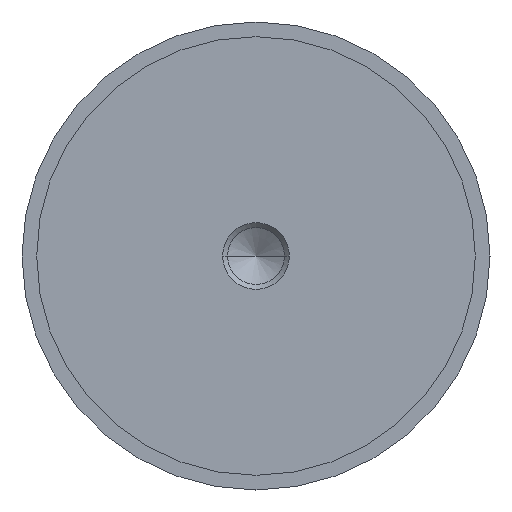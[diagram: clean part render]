
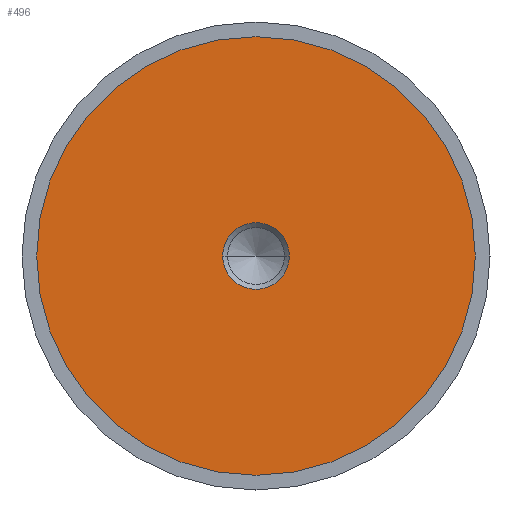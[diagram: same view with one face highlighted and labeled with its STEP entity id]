
A CAD part, left-side view. The second image highlights one B-rep face of the part: STEP entity #496.
In plain terms, the highlighted planar face has unit normal (-1, 0, 0).
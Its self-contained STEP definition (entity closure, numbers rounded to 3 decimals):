
#40 = DIRECTION ( 'NONE',  ( 0., 0., 1. ) ) ;
#45 = DIRECTION ( 'NONE',  ( -1., 0., 0. ) ) ;
#51 = CARTESIAN_POINT ( 'NONE',  ( -14.99, 0., 0. ) ) ;
#58 = CIRCLE ( 'NONE', #655, 4.99 ) ;
#73 = VERTEX_POINT ( 'NONE', #103 ) ;
#103 = CARTESIAN_POINT ( 'NONE',  ( -14.99, -4.99, 0. ) ) ;
#112 = FACE_OUTER_BOUND ( 'NONE', #628, .T. ) ;
#132 = AXIS2_PLACEMENT_3D ( 'NONE', #651, #606, #706 ) ;
#148 = VERTEX_POINT ( 'NONE', #473 ) ;
#192 = CIRCLE ( 'NONE', #388, 32.8 ) ;
#197 = VERTEX_POINT ( 'NONE', #287 ) ;
#212 = EDGE_CURVE ( 'NONE', #148, #73, #525, .T. ) ;
#217 = CARTESIAN_POINT ( 'NONE',  ( -14.99, 0., 0. ) ) ;
#223 = DIRECTION ( 'NONE',  ( 0., 0., -1. ) ) ;
#248 = EDGE_CURVE ( 'NONE', #684, #197, #633, .T. ) ;
#287 = CARTESIAN_POINT ( 'NONE',  ( -14.99, 0., 32.8 ) ) ;
#300 = ORIENTED_EDGE ( 'NONE', *, *, #537, .T. ) ;
#377 = AXIS2_PLACEMENT_3D ( 'NONE', #393, #652, #223 ) ;
#388 = AXIS2_PLACEMENT_3D ( 'NONE', #217, #658, #40 ) ;
#392 = DIRECTION ( 'NONE',  ( 0., 0., 1. ) ) ;
#393 = CARTESIAN_POINT ( 'NONE',  ( -14.99, 32.8, 0. ) ) ;
#431 = ORIENTED_EDGE ( 'NONE', *, *, #532, .T. ) ;
#450 = DIRECTION ( 'NONE',  ( 1., 0., 0. ) ) ;
#473 = CARTESIAN_POINT ( 'NONE',  ( -14.99, 4.99, 0. ) ) ;
#483 = CARTESIAN_POINT ( 'NONE',  ( -14.99, 0., -32.8 ) ) ;
#484 = EDGE_LOOP ( 'NONE', ( #300, #641 ) ) ;
#495 = PLANE ( 'NONE',  #377 ) ;
#496 = ADVANCED_FACE ( 'NONE', ( #712, #112 ), #495, .F. ) ;
#525 = CIRCLE ( 'NONE', #132, 4.99 ) ;
#532 = EDGE_CURVE ( 'NONE', #197, #684, #192, .T. ) ;
#537 = EDGE_CURVE ( 'NONE', #73, #148, #58, .T. ) ;
#559 = CARTESIAN_POINT ( 'NONE',  ( -14.99, 0., 0. ) ) ;
#606 = DIRECTION ( 'NONE',  ( 1., 0., 0. ) ) ;
#628 = EDGE_LOOP ( 'NONE', ( #431, #674 ) ) ;
#633 = CIRCLE ( 'NONE', #708, 32.8 ) ;
#641 = ORIENTED_EDGE ( 'NONE', *, *, #212, .T. ) ;
#651 = CARTESIAN_POINT ( 'NONE',  ( -14.99, 0., 0. ) ) ;
#652 = DIRECTION ( 'NONE',  ( 1., 0., 0. ) ) ;
#655 = AXIS2_PLACEMENT_3D ( 'NONE', #51, #450, #660 ) ;
#658 = DIRECTION ( 'NONE',  ( -1., 0., 0. ) ) ;
#660 = DIRECTION ( 'NONE',  ( 0., 0., -1. ) ) ;
#674 = ORIENTED_EDGE ( 'NONE', *, *, #248, .T. ) ;
#684 = VERTEX_POINT ( 'NONE', #483 ) ;
#706 = DIRECTION ( 'NONE',  ( 0., 0., -1. ) ) ;
#708 = AXIS2_PLACEMENT_3D ( 'NONE', #559, #45, #392 ) ;
#712 = FACE_BOUND ( 'NONE', #484, .T. ) ;
